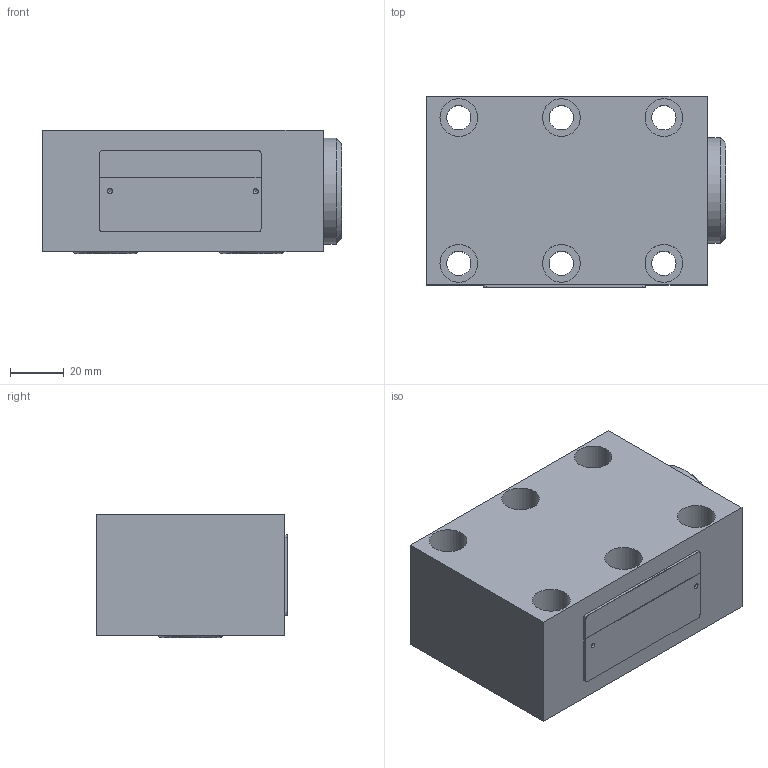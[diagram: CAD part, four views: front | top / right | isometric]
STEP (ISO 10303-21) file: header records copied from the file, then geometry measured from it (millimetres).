
FILE_DESCRIPTION(/* description */ (''),/* implementation_level */ '2;1');
FILE_NAME(/* name */ 'RVP16单向阀.prt.stp',/* time_stamp */ '2022-03-30T19:11:45+08:00',/* author */ (''),/* organization */ (''),/* preprocessor_version */ 'ST-DEVELOPER v16.7',/* originating_system */ 'SIEMENS PLM Software NX 12.0',/* authorisation */ '');
FILE_SCHEMA (('AUTOMOTIVE_DESIGN { 1 0 10303 214 3 1 1 1 }'));
Length unit declared in the file: millimetre
Products named in the file (1): RVP16单向阀
Bounding box: 110.84 x 71.1 x 45.6 mm (x, y, z)
Volume: 313018.5 mm3; surface area: 54549.4 mm2
Topology: 6 solids, 8 shells, 94 faces, 212 edges, 141 vertices
Faces by surface type: plane 45, cylinder 36, cone 8, torus 3, bspline 2
Full cylindrical faces by diameter (mm): 1.8 x2, 1.9 x2, 9 x6, 11.762 x1, 14 x6, 15.5 x1, 17 x1, 24.481 x1, 24.5 x1, 26.1 x2, 27.5 x1, 30 x1, 39.206 x1, 40 x1
Entity records: 3997 total; most frequent: CARTESIAN_POINT 2009, DIRECTION 407, ORIENTED_EDGE 310, AXIS2_PLACEMENT_3D 172, EDGE_LOOP 159, EDGE_CURVE 155, FACE_BOUND 129, VERTEX_POINT 128
